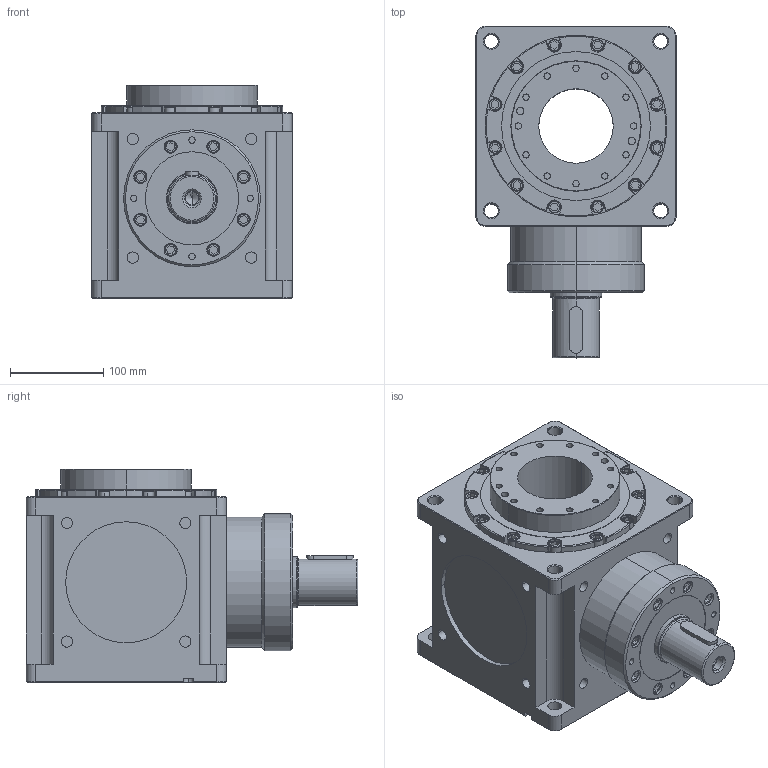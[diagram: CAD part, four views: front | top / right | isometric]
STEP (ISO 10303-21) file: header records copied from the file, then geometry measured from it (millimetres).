
FILE_DESCRIPTION (( 'STEP AP214' ), '1' );
FILE_NAME ('CCT215A-002-RF.STEP', '2025-05-28T06:27:46', ( '微软用户' ), ( '微软中国' ), 'SwSTEP 2.0', 'SolidWorks 2024', '' );
FILE_SCHEMA (( 'AUTOMOTIVE_DESIGN' ));
Length unit declared in the file: millimetre
Products named in the file (3): CCW215A-002-RF箱体; CCT215A输入组件; CCT215A-002-RF
Assembly tree (2 placements, depth 2):
  CCT215A-002-RF
    CCW215A-002-RF箱体
    CCT215A输入组件
Bounding box: 215 x 356.5 x 229.5 mm (x, y, z)
Volume: 8833569.4 mm3; surface area: 459268.8 mm2
Topology: 2 solids, 2 shells, 720 faces, 1693 edges, 1071 vertices
Faces by surface type: plane 296, cylinder 287, torus 81, cone 32, bspline 24
Entity records: 21680 total; most frequent: CARTESIAN_POINT 4557, DIRECTION 3784, ORIENTED_EDGE 3382, EDGE_CURVE 1691, AXIS2_PLACEMENT_3D 1444, VERTEX_POINT 1071, LINE 896, VECTOR 896
